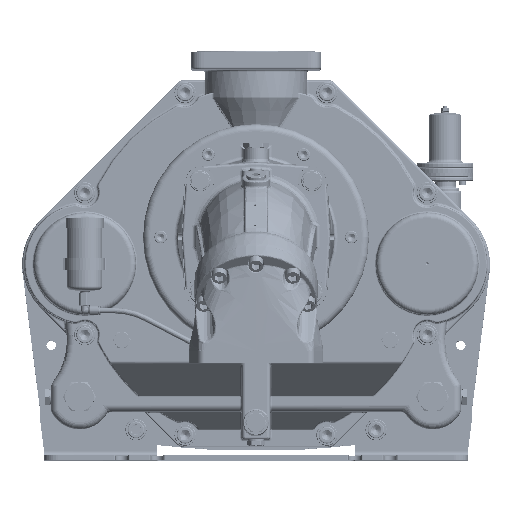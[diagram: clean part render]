
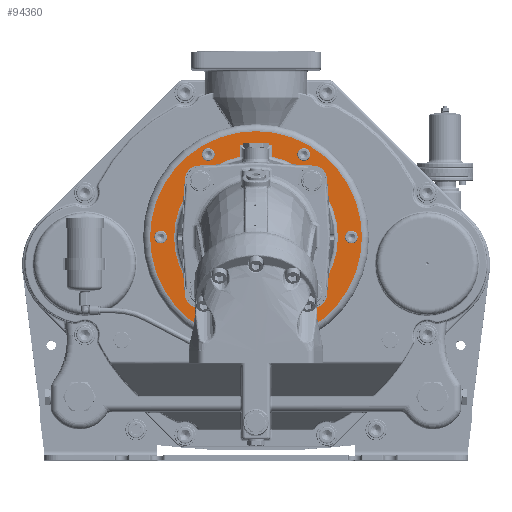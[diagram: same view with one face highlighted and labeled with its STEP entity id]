
A CAD part, top view. The second image highlights one B-rep face of the part: STEP entity #94360.
In plain terms, the highlighted planar face has unit normal (0, 0, 1) as drawn and (0, 1, 0) by its records, which use the part's own axes.
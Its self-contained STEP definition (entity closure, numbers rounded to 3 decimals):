
#13206=LINE('',#159637,#18411);
#13207=LINE('',#159641,#18412);
#13208=LINE('',#159642,#18413);
#18411=VECTOR('',#120534,10.);
#18412=VECTOR('',#120537,10.);
#18413=VECTOR('',#120538,10.);
#22751=FACE_BOUND('',#31720,.T.);
#22752=FACE_BOUND('',#31721,.T.);
#22753=FACE_BOUND('',#31722,.T.);
#22754=FACE_BOUND('',#31723,.T.);
#22755=FACE_BOUND('',#31724,.T.);
#22756=FACE_BOUND('',#31725,.T.);
#22757=FACE_BOUND('',#31726,.T.);
#25845=FACE_OUTER_BOUND('',#31719,.T.);
#31719=EDGE_LOOP('',(#75353));
#31720=EDGE_LOOP('',(#75354,#75355,#75356,#75357));
#31721=EDGE_LOOP('',(#75358));
#31722=EDGE_LOOP('',(#75359));
#31723=EDGE_LOOP('',(#75360));
#31724=EDGE_LOOP('',(#75361));
#31725=EDGE_LOOP('',(#75362));
#31726=EDGE_LOOP('',(#75363));
#37546=CIRCLE('',#103485,150.);
#37550=CIRCLE('',#103490,116.);
#37551=CIRCLE('',#103491,6.5);
#37552=CIRCLE('',#103492,6.5);
#37553=CIRCLE('',#103493,6.5);
#37554=CIRCLE('',#103494,6.5);
#37555=CIRCLE('',#103495,6.5);
#37556=CIRCLE('',#103496,6.5);
#43750=VERTEX_POINT('',#159627);
#43753=VERTEX_POINT('',#159635);
#43754=VERTEX_POINT('',#159636);
#43755=VERTEX_POINT('',#159638);
#43756=VERTEX_POINT('',#159640);
#43757=VERTEX_POINT('',#159643);
#43758=VERTEX_POINT('',#159645);
#43759=VERTEX_POINT('',#159647);
#43760=VERTEX_POINT('',#159649);
#43761=VERTEX_POINT('',#159651);
#43762=VERTEX_POINT('',#159653);
#54947=EDGE_CURVE('',#43750,#43750,#37546,.T.);
#54951=EDGE_CURVE('',#43753,#43754,#13206,.T.);
#54952=EDGE_CURVE('',#43755,#43753,#37550,.T.);
#54953=EDGE_CURVE('',#43756,#43755,#13207,.T.);
#54954=EDGE_CURVE('',#43754,#43756,#13208,.T.);
#54955=EDGE_CURVE('',#43757,#43757,#37551,.T.);
#54956=EDGE_CURVE('',#43758,#43758,#37552,.T.);
#54957=EDGE_CURVE('',#43759,#43759,#37553,.T.);
#54958=EDGE_CURVE('',#43760,#43760,#37554,.T.);
#54959=EDGE_CURVE('',#43761,#43761,#37555,.T.);
#54960=EDGE_CURVE('',#43762,#43762,#37556,.T.);
#75353=ORIENTED_EDGE('',*,*,#54947,.F.);
#75354=ORIENTED_EDGE('',*,*,#54951,.F.);
#75355=ORIENTED_EDGE('',*,*,#54952,.F.);
#75356=ORIENTED_EDGE('',*,*,#54953,.F.);
#75357=ORIENTED_EDGE('',*,*,#54954,.F.);
#75358=ORIENTED_EDGE('',*,*,#54955,.T.);
#75359=ORIENTED_EDGE('',*,*,#54956,.T.);
#75360=ORIENTED_EDGE('',*,*,#54957,.T.);
#75361=ORIENTED_EDGE('',*,*,#54958,.T.);
#75362=ORIENTED_EDGE('',*,*,#54959,.T.);
#75363=ORIENTED_EDGE('',*,*,#54960,.T.);
#90670=PLANE('',#103489);
#94360=ADVANCED_FACE('',(#25845,#22751,#22752,#22753,#22754,#22755,#22756,
#22757),#90670,.F.);
#103485=AXIS2_PLACEMENT_3D('',#159628,#120524,#120525);
#103489=AXIS2_PLACEMENT_3D('',#159634,#120532,#120533);
#103490=AXIS2_PLACEMENT_3D('',#159639,#120535,#120536);
#103491=AXIS2_PLACEMENT_3D('',#159644,#120539,#120540);
#103492=AXIS2_PLACEMENT_3D('',#159646,#120541,#120542);
#103493=AXIS2_PLACEMENT_3D('',#159648,#120543,#120544);
#103494=AXIS2_PLACEMENT_3D('',#159650,#120545,#120546);
#103495=AXIS2_PLACEMENT_3D('',#159652,#120547,#120548);
#103496=AXIS2_PLACEMENT_3D('',#159654,#120549,#120550);
#120524=DIRECTION('center_axis',(0.,-1.,0.));
#120525=DIRECTION('ref_axis',(-1.,0.,0.));
#120532=DIRECTION('center_axis',(0.,-1.,0.));
#120533=DIRECTION('ref_axis',(0.,0.,-1.));
#120534=DIRECTION('',(0.,0.,-1.));
#120535=DIRECTION('center_axis',(0.,1.,0.));
#120536=DIRECTION('ref_axis',(0.,0.,1.));
#120537=DIRECTION('',(0.,0.,1.));
#120538=DIRECTION('',(-1.,0.,0.));
#120539=DIRECTION('center_axis',(0.,-1.,0.));
#120540=DIRECTION('ref_axis',(1.,0.,0.));
#120541=DIRECTION('center_axis',(0.,-1.,0.));
#120542=DIRECTION('ref_axis',(1.,0.,0.));
#120543=DIRECTION('center_axis',(0.,-1.,0.));
#120544=DIRECTION('ref_axis',(1.,0.,0.));
#120545=DIRECTION('center_axis',(0.,-1.,0.));
#120546=DIRECTION('ref_axis',(1.,0.,0.));
#120547=DIRECTION('center_axis',(0.,-1.,0.));
#120548=DIRECTION('ref_axis',(1.,0.,0.));
#120549=DIRECTION('center_axis',(0.,-1.,0.));
#120550=DIRECTION('ref_axis',(1.,0.,0.));
#159627=CARTESIAN_POINT('',(0.,20.,-150.));
#159628=CARTESIAN_POINT('Origin',(0.,20.,0.));
#159634=CARTESIAN_POINT('Origin',(0.,20.,0.));
#159635=CARTESIAN_POINT('',(22.5,20.,-113.797));
#159636=CARTESIAN_POINT('',(22.5,20.,-130.));
#159637=CARTESIAN_POINT('',(22.5,20.,-62.5));
#159638=CARTESIAN_POINT('',(-22.5,20.,-113.797));
#159639=CARTESIAN_POINT('Origin',(0.,20.,0.));
#159640=CARTESIAN_POINT('',(-22.5,20.,-130.));
#159641=CARTESIAN_POINT('',(-22.5,20.,-62.5));
#159642=CARTESIAN_POINT('',(0.,20.,-130.));
#159643=CARTESIAN_POINT('',(61.,20.,-116.913));
#159644=CARTESIAN_POINT('Origin',(67.5,20.,-116.913));
#159645=CARTESIAN_POINT('',(61.,20.,116.913));
#159646=CARTESIAN_POINT('Origin',(67.5,20.,116.913));
#159647=CARTESIAN_POINT('',(-141.5,20.,0.));
#159648=CARTESIAN_POINT('Origin',(-135.,20.,0.));
#159649=CARTESIAN_POINT('',(-74.,20.,-116.913));
#159650=CARTESIAN_POINT('Origin',(-67.5,20.,-116.913));
#159651=CARTESIAN_POINT('',(-74.,20.,116.913));
#159652=CARTESIAN_POINT('Origin',(-67.5,20.,116.913));
#159653=CARTESIAN_POINT('',(128.5,20.,0.));
#159654=CARTESIAN_POINT('Origin',(135.,20.,0.));
